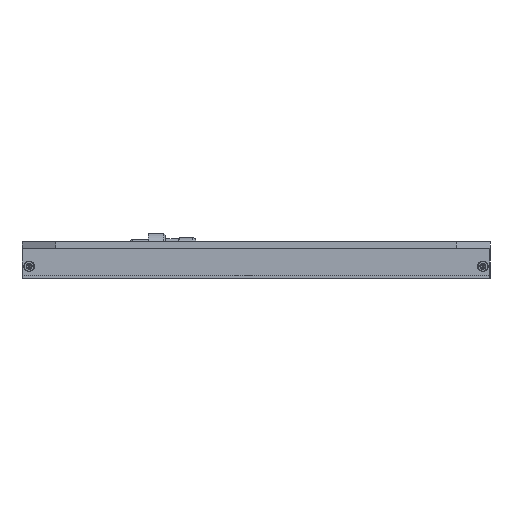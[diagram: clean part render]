
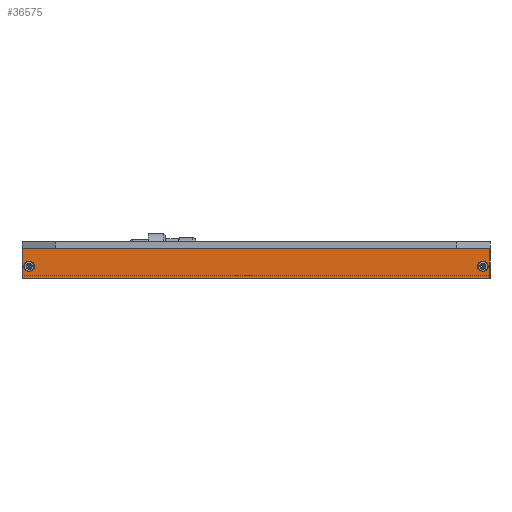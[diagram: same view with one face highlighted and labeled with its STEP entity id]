
A CAD part, front view. The second image highlights one B-rep face of the part: STEP entity #36575.
In plain terms, the highlighted planar face has unit normal (0, -1, 0).
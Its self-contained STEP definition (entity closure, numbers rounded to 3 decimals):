
#5843=DIRECTION('',(-1.,0.,0.));
#5844=VECTOR('',#5843,264.6);
#5845=CARTESIAN_POINT('',(132.3,-182.5,0.));
#5846=LINE('',#5845,#5844);
#12803=DIRECTION('',(-1.,0.,0.));
#12804=VECTOR('',#12803,264.6);
#12805=CARTESIAN_POINT('',(132.3,-182.5,-16.8));
#12806=LINE('',#12805,#12804);
#12823=CARTESIAN_POINT('',(-128.5,-182.5,-10.));
#12824=DIRECTION('',(0.,1.,0.));
#12825=DIRECTION('',(0.,0.,1.));
#12826=AXIS2_PLACEMENT_3D('',#12823,#12824,#12825);
#12828=CARTESIAN_POINT('',(-128.5,-182.5,-10.));
#12829=DIRECTION('',(0.,1.,0.));
#12830=DIRECTION('',(0.,0.,-1.));
#12831=AXIS2_PLACEMENT_3D('',#12828,#12829,#12830);
#12833=CARTESIAN_POINT('',(128.5,-182.5,-10.));
#12834=DIRECTION('',(0.,1.,0.));
#12835=DIRECTION('',(0.,0.,-1.));
#12836=AXIS2_PLACEMENT_3D('',#12833,#12834,#12835);
#12838=CARTESIAN_POINT('',(128.5,-182.5,-10.));
#12839=DIRECTION('',(0.,1.,0.));
#12840=DIRECTION('',(0.,0.,1.));
#12841=AXIS2_PLACEMENT_3D('',#12838,#12839,#12840);
#12843=DIRECTION('',(0.,0.,1.));
#12844=VECTOR('',#12843,16.8);
#12845=CARTESIAN_POINT('',(132.3,-182.5,-16.8));
#12846=LINE('',#12845,#12844);
#12847=DIRECTION('',(0.,0.,-1.));
#12848=VECTOR('',#12847,16.8);
#12849=CARTESIAN_POINT('',(-132.3,-182.5,0.));
#12850=LINE('',#12849,#12848);
#14281=CARTESIAN_POINT('',(-132.3,-182.5,-16.8));
#14283=VERTEX_POINT('',#14281);
#14289=CARTESIAN_POINT('',(132.3,-182.5,-16.8));
#14290=VERTEX_POINT('',#14289);
#14291=CARTESIAN_POINT('',(128.5,-182.5,-7.));
#14292=CARTESIAN_POINT('',(128.5,-182.5,-13.));
#14293=VERTEX_POINT('',#14291);
#14294=VERTEX_POINT('',#14292);
#14295=CARTESIAN_POINT('',(-128.5,-182.5,-13.));
#14296=CARTESIAN_POINT('',(-128.5,-182.5,-7.));
#14297=VERTEX_POINT('',#14295);
#14298=VERTEX_POINT('',#14296);
#16966=CARTESIAN_POINT('',(-132.3,-182.5,0.));
#16968=VERTEX_POINT('',#16966);
#16970=CARTESIAN_POINT('',(132.3,-182.5,0.));
#16972=VERTEX_POINT('',#16970);
#36551=CARTESIAN_POINT('',(-132.5,-182.5,-17.));
#36552=DIRECTION('',(0.,-1.,0.));
#36553=DIRECTION('',(0.,0.,1.));
#36554=AXIS2_PLACEMENT_3D('',#36551,#36552,#36553);
#36555=PLANE('',#36554);
#36556=ORIENTED_EDGE('',*,*,#36546,.F.);
#36557=ORIENTED_EDGE('',*,*,#36516,.T.);
#36559=ORIENTED_EDGE('',*,*,#36558,.F.);
#36560=ORIENTED_EDGE('',*,*,#25894,.F.);
#36561=EDGE_LOOP('',(#36556,#36557,#36559,#36560));
#36562=FACE_OUTER_BOUND('',#36561,.F.);
#36564=ORIENTED_EDGE('',*,*,#36563,.F.);
#36566=ORIENTED_EDGE('',*,*,#36565,.F.);
#36567=EDGE_LOOP('',(#36564,#36566));
#36568=FACE_BOUND('',#36567,.F.);
#36570=ORIENTED_EDGE('',*,*,#36569,.F.);
#36572=ORIENTED_EDGE('',*,*,#36571,.F.);
#36573=EDGE_LOOP('',(#36570,#36572));
#36574=FACE_BOUND('',#36573,.F.);
#36575=ADVANCED_FACE('',(#36562,#36568,#36574),#36555,.T.);
#12827=CIRCLE('',#12826,3.);
#12832=CIRCLE('',#12831,3.);
#12837=CIRCLE('',#12836,3.);
#12842=CIRCLE('',#12841,3.);
#25894=EDGE_CURVE('',#16972,#16968,#5846,.T.);
#36516=EDGE_CURVE('',#14290,#14283,#12806,.T.);
#36546=EDGE_CURVE('',#14290,#16972,#12846,.T.);
#36558=EDGE_CURVE('',#16968,#14283,#12850,.T.);
#36563=EDGE_CURVE('',#14294,#14293,#12837,.T.);
#36565=EDGE_CURVE('',#14293,#14294,#12842,.T.);
#36569=EDGE_CURVE('',#14298,#14297,#12827,.T.);
#36571=EDGE_CURVE('',#14297,#14298,#12832,.T.);
